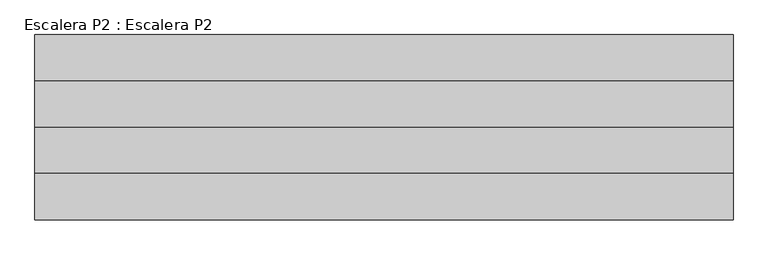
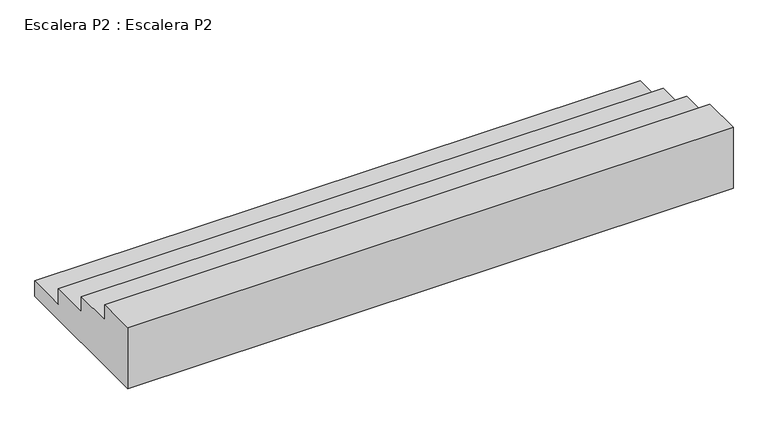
"""IFC4 building model written with IfcOpenShell, lengths in millimetres: stair geometry, Escalera P2 : Escalera P2."""

from ifc_helpers import new_model, si_unit, frame, origin, place, context, project, spatial, polyline, outline, extrude, source, transform, mapped, element, save


def escalera_p2_escalera_p2_1fe4a949(model_context):
    return source(origin(), model_context, "Body", "SweptSolid", [
        extrude(outline(polyline([(-29210.493098, -128.8572336), (-28910.493098, -128.8572336), (-28910.493098, -248.8572336), (-28610.493098, -248.8572336), (-28610.493098, -368.8572336), (-28310.493098, -368.8572336), (-28310.493098, -488.8572336), (-28010.493098, -488.8572336), (-28010.493098, -610.4), (-29210.493098, -610.4), (-29210.493098, -128.8572336)])), frame((29468.4363177, 0.0, 0.0), z_axis=(1.0, 0.0, 0.0), x_axis=(0.0, 1.0, 0.0)), (0.0, 0.0, 1.0), 4518.0),
    ])


if __name__ == "__main__":
    model = new_model("IFC4")
    model_context = context("Model", 3, world=origin())
    ifc_project = project(units=[si_unit("LENGTHUNIT", "METRE", prefix="MILLI")], contexts=[model_context])
    site = spatial("IfcSite", under=ifc_project)
    building = spatial("IfcBuilding", under=site)
    placement = place(None, origin())
    escalera_p2_escalera_p2_shape = escalera_p2_escalera_p2_1fe4a949(model_context)
    element("IfcStair", 1, ObjectType="Escalera P2 : Escalera P2", at=placement, inside=building, context=model_context, shape_type="MappedRepresentation", body=[
        mapped(escalera_p2_escalera_p2_shape, transform((0.0, 0.0, 0.0), x_axis=(1.0, 0.0, 0.0), y_axis=(0.0, 1.0, 0.0), z_axis=(0.0, 0.0, 1.0))),
    ])
    save(model, "model.ifc")
